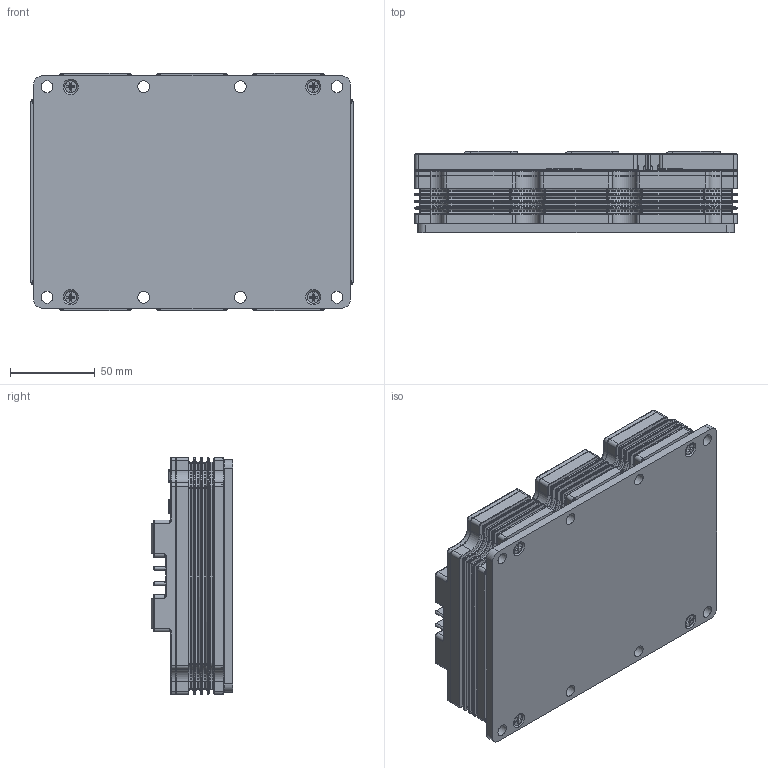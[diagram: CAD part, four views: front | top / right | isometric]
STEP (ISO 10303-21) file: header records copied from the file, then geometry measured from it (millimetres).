
FILE_DESCRIPTION (( 'STEP AP214' ), '1' );
FILE_NAME ('LD-ES-170634-MBN1800FH33F.STEP', '2017-08-25T04:27:13', ( 'Flora110' ), ( '' ), 'SwSTEP 2.0', 'SolidWorks 2010', '' );
FILE_SCHEMA (( 'AUTOMOTIVE_DESIGN' ));
Length unit declared in the file: millimetre
Products named in the file (1): LD-ES-170634-MBN1800FH33F
Bounding box: 190 x 48 x 140 mm (x, y, z)
Volume: 961866.5 mm3; surface area: 177434.8 mm2
Topology: 1 solids, 15 shells, 3480 faces, 8074 edges, 4635 vertices
Faces by surface type: cylinder 1255, bspline 1162, plane 1063
Full cylindrical faces by diameter (mm): 1.25 x2, 1.5 x1, 2 x11, 3.1 x4, 3.3 x3, 3.5 x4, 4 x4, 4.5 x4, 5 x2, 6 x4, 6.4 x1, 7 x15, 8 x6, 9 x6, 9.3 x4, 9.5 x2, 10 x2, 13 x1, 13.016 x1, 17.5 x6, 18.5 x6
Entity records: 162146 total; most frequent: CARTESIAN_POINT 52102, ORIENTED_EDGE 15688, DIRECTION 13819, EDGE_CURVE 7844, AXIS2_PLACEMENT_3D 5054, VERTEX_POINT 4583, EDGE_LOOP 3767, VECTOR 3711
